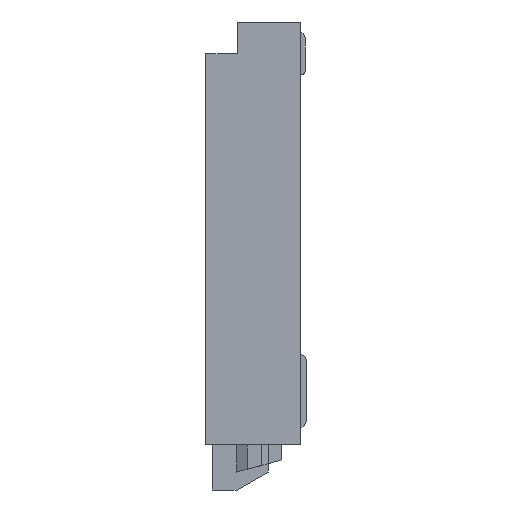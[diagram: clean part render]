
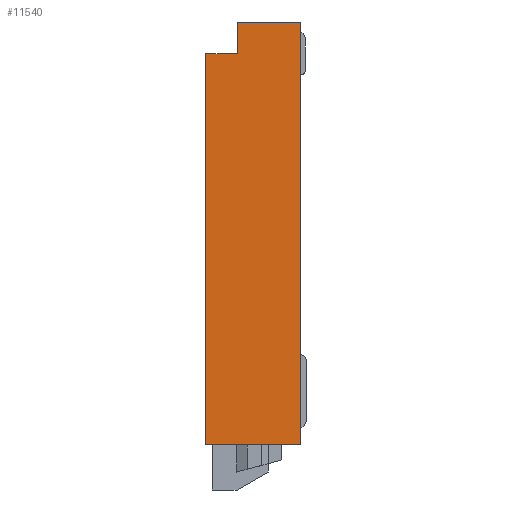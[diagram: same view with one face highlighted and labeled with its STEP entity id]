
A CAD part, left-side view. The second image highlights one B-rep face of the part: STEP entity #11540.
In plain terms, the highlighted planar face has unit normal (-1, 0, 0).
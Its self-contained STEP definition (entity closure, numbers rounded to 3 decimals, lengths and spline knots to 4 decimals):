
#4315 = LINE ( 'NONE', #35264, #34591 ) ;
#4350 = LINE ( 'NONE', #35364, #34750 ) ;
#8746 = AXIS2_PLACEMENT_3D ( 'NONE', #18088, #18089, #18090 ) ;
#8938 = FACE_OUTER_BOUND ( 'NONE', #30000, .T. ) ;
#9325 = LINE ( 'NONE', #10824, #18584 ) ;
#9377 = LINE ( 'NONE', #10971, #18662 ) ;
#9379 = LINE ( 'NONE', #10975, #18664 ) ;
#9380 = LINE ( 'NONE', #10977, #18665 ) ;
#10824 = CARTESIAN_POINT ( 'NONE',  ( -7.7, 0.9, 0. ) ) ;
#10825 = DIRECTION ( 'NONE',  ( 0., 0., -1. ) ) ;
#10971 = CARTESIAN_POINT ( 'NONE',  ( -7.7, 0.9, 0. ) ) ;
#10972 = DIRECTION ( 'NONE',  ( 0., 1., 0. ) ) ;
#10975 = CARTESIAN_POINT ( 'NONE',  ( -7.7, 0., 0. ) ) ;
#10976 = DIRECTION ( 'NONE',  ( 0., 0., -1. ) ) ;
#10977 = CARTESIAN_POINT ( 'NONE',  ( -7.7, 0., -4. ) ) ;
#10978 = DIRECTION ( 'NONE',  ( 0., 1., 0. ) ) ;
#11540 = ADVANCED_FACE ( 'NONE', ( #8938 ), #18087, .T. ) ;
#11946 = EDGE_CURVE ( 'NONE', #37937, #37192, #9325, .T. ) ;
#12012 = EDGE_CURVE ( 'NONE', #37151, #37904, #9377, .T. ) ;
#12014 = EDGE_CURVE ( 'NONE', #37151, #37150, #9379, .T. ) ;
#12015 = EDGE_CURVE ( 'NONE', #37150, #37192, #9380, .T. ) ;
#13251 = ORIENTED_EDGE ( 'NONE', *, *, #12015, .F. ) ;
#13252 = ORIENTED_EDGE ( 'NONE', *, *, #12012, .T. ) ;
#13253 = ORIENTED_EDGE ( 'NONE', *, *, #12014, .F. ) ;
#13254 = ORIENTED_EDGE ( 'NONE', *, *, #39516, .T. ) ;
#13255 = ORIENTED_EDGE ( 'NONE', *, *, #39561, .T. ) ;
#13256 = ORIENTED_EDGE ( 'NONE', *, *, #11946, .T. ) ;
#18087 = PLANE ( 'NONE',  #8746 ) ;
#18088 = CARTESIAN_POINT ( 'NONE',  ( -7.7, 0.9, 0. ) ) ;
#18089 = DIRECTION ( 'NONE',  ( -1., 0., 0. ) ) ;
#18090 = DIRECTION ( 'NONE',  ( 0., 0., 1. ) ) ;
#18584 = VECTOR ( 'NONE', #10825, 1000. ) ;
#18662 = VECTOR ( 'NONE', #10972, 1000. ) ;
#18664 = VECTOR ( 'NONE', #10976, 1000. ) ;
#18665 = VECTOR ( 'NONE', #10978, 1000. ) ;
#30000 = EDGE_LOOP ( 'NONE', ( #13251, #13253, #13252, #13255, #13254, #13256 ) ) ;
#30928 = CARTESIAN_POINT ( 'NONE',  ( -7.7, 0., -4. ) ) ;
#30929 = CARTESIAN_POINT ( 'NONE',  ( -7.7, 0., 0. ) ) ;
#30970 = CARTESIAN_POINT ( 'NONE',  ( -7.7, 0.9, -4. ) ) ;
#31979 = CARTESIAN_POINT ( 'NONE',  ( -7.7, 0.6, 0. ) ) ;
#32041 = CARTESIAN_POINT ( 'NONE',  ( -7.7, 0.9, -0.3 ) ) ;
#32046 = CARTESIAN_POINT ( 'NONE',  ( -7.7, 0.6, -0.3 ) ) ;
#34591 = VECTOR ( 'NONE', #35265, 1000. ) ;
#34750 = VECTOR ( 'NONE', #35365, 1000. ) ;
#35264 = CARTESIAN_POINT ( 'NONE',  ( -7.7, 1.5, -0.3 ) ) ;
#35265 = DIRECTION ( 'NONE',  ( 0., 1., 0. ) ) ;
#35364 = CARTESIAN_POINT ( 'NONE',  ( -7.7, 0.6, 0. ) ) ;
#35365 = DIRECTION ( 'NONE',  ( 0., 0., -1. ) ) ;
#37150 = VERTEX_POINT ( 'NONE', #30928 ) ;
#37151 = VERTEX_POINT ( 'NONE', #30929 ) ;
#37192 = VERTEX_POINT ( 'NONE', #30970 ) ;
#37904 = VERTEX_POINT ( 'NONE', #31979 ) ;
#37937 = VERTEX_POINT ( 'NONE', #32041 ) ;
#37940 = VERTEX_POINT ( 'NONE', #32046 ) ;
#39516 = EDGE_CURVE ( 'NONE', #37940, #37937, #4315, .T. ) ;
#39561 = EDGE_CURVE ( 'NONE', #37904, #37940, #4350, .T. ) ;
